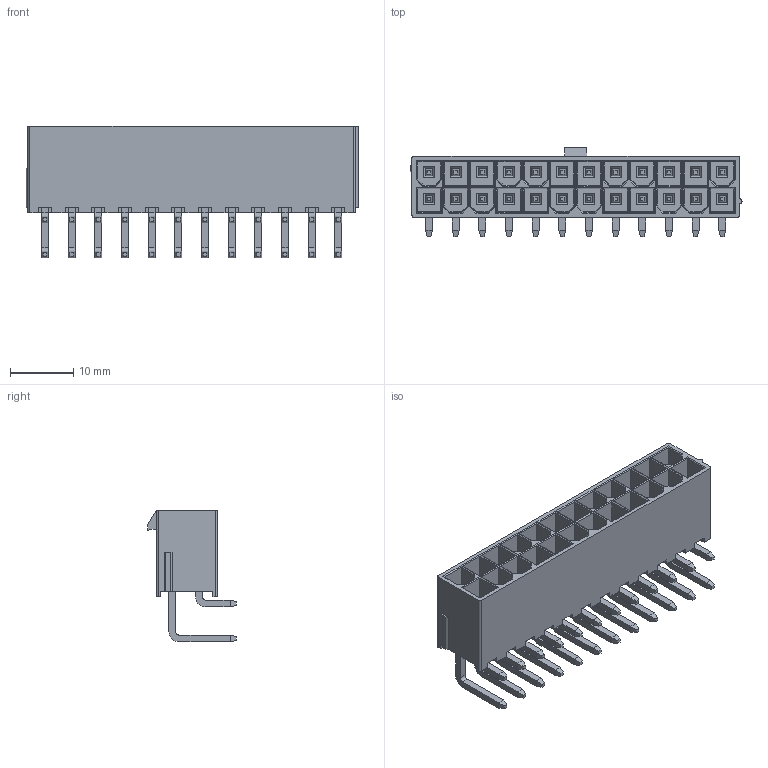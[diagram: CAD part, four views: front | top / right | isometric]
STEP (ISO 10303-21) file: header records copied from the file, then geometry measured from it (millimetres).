
FILE_DESCRIPTION((''),'2;1');
FILE_NAME('S-57953-024XX-XXX_ASM','2018-05-08T',('d33379'),(''),'CREO PARAMETRIC BY PTC INC, 2014500','CREO PARAMETRIC BY PTC INC, 2014500','');
FILE_SCHEMA(('CONFIG_CONTROL_DESIGN'));
Length unit declared in the file: millimetre
Products named in the file (1): S-57953-024XX-XXX_ASM
Bounding box: 52.3 x 14.02 x 20.73 mm (x, y, z)
Volume: 3318.7 mm3; surface area: 8664.1 mm2
Topology: 1 solids, 1 shells, 1562 faces, 4041 edges, 2590 vertices
Faces by surface type: plane 1413, cylinder 149
Entity records: 46512 total; most frequent: CARTESIAN_POINT 8158, ORIENTED_EDGE 7986, DIRECTION 7539, EDGE_CURVE 3993, VECTOR 3693, LINE 3693, VERTEX_POINT 2542, AXIS2_PLACEMENT_3D 1923
